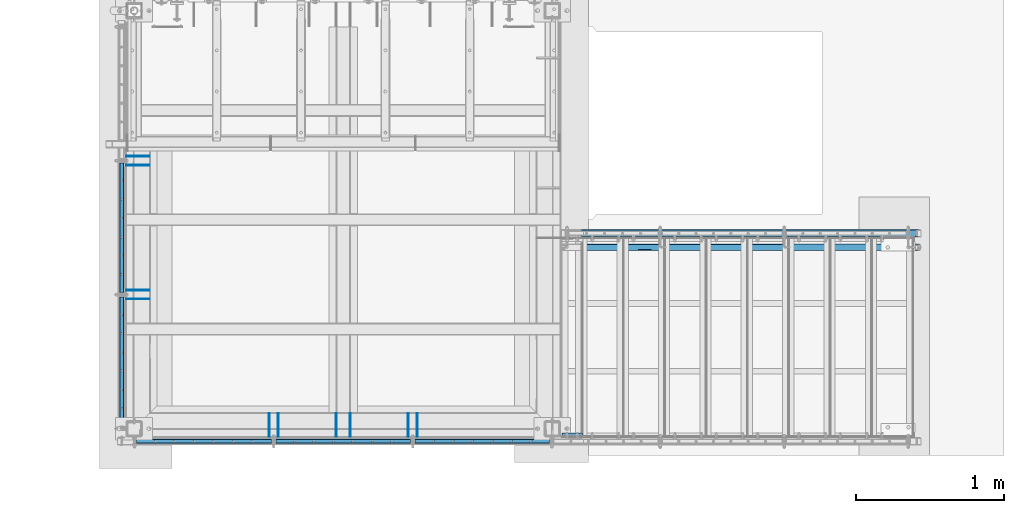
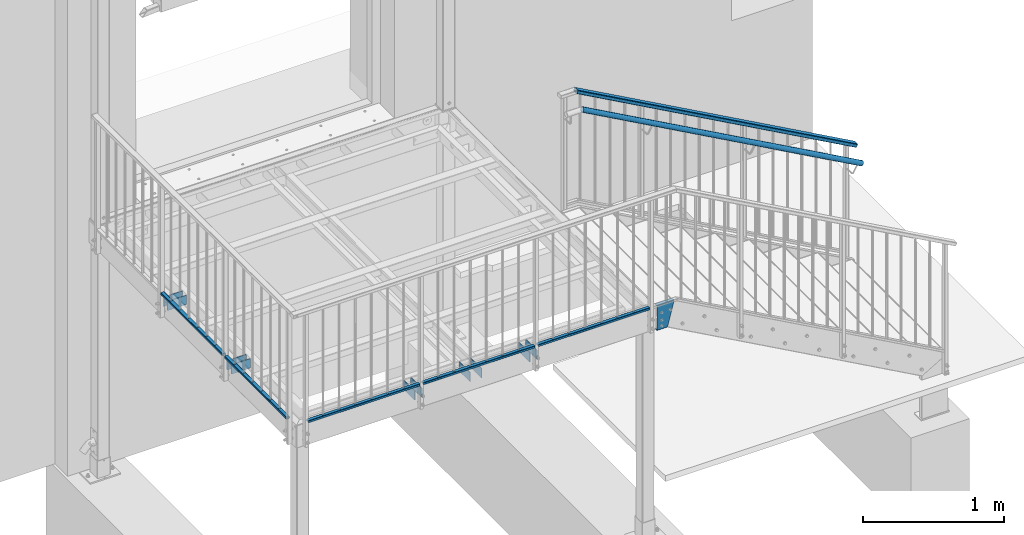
# One storey, part 14 of 116: 16 beams, 2 members, 53 openings.
"""IFC2X3 building model written with IfcOpenShell, lengths in millimetres."""

from ifc_helpers import new_model, entity, si_unit, converted_unit, point, frame, frame_2d, origin, origin_with_axes, origin_2d, origin_2d_with_axis, place, context, project, spatial, circle_curve, line_curve, trimmed, segment, composite_curve, rectangle, hollow_rectangle, circle, hollow_circle, outline, extrude, clip, halfspace, material, element, save


model = new_model("IFC2X3")

# Units and contexts
model_context = context("Model", 3, precision=1e-09, world=origin_with_axes())
ifc_project = project(units=[si_unit("LENGTHUNIT", "METRE", prefix="MILLI"), si_unit("AREAUNIT", "SQUARE_METRE"), si_unit("VOLUMEUNIT", "CUBIC_METRE"), converted_unit("PLANEANGLEUNIT", "DEGREE", entity("IfcPlaneAngleMeasure", 0.01745329), si_unit("PLANEANGLEUNIT", "RADIAN"), dimensions=[0, 0, 0, 0, 0, 0, 0])], contexts=[model_context])

# Site, building, storey
site_placement = place(None, origin_with_axes())
site = spatial("IfcSite", under=ifc_project, at=site_placement, Name="Site", CompositionType="ELEMENT")
building_placement = place(site_placement, origin_with_axes())
building = spatial("IfcBuilding", under=site, at=building_placement, Name="Struktur 1", CompositionType="ELEMENT")
storey_placement = place(building_placement, origin_with_axes())
storey = spatial("IfcBuildingStorey", under=building, at=storey_placement, Name="Default Storey", CompositionType="ELEMENT", Elevation=0.0)

# Beam, openings
ifc_material = material(Name="S235JR")
beam_1_placement = place(None, frame((58598.529568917, 9087.358883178, -108.5), z_axis=(-1.0, 0.0, 0.0), x_axis=(0.0, 1.0, 0.0)))
beam_1 = element("IfcBeam", 1, at=beam_1_placement, inside=storey, material=ifc_material, Name="-", ObjectType="-", context=model_context, shape_type="Clipping", body=[
    clip(extrude(outline(composite_curve([segment(trimmed(line_curve((15.0, 108.5), (-1.0, 0.0), 25.0), [point((15.0, 108.5))], [point((-10.0, 108.5))], True, "CARTESIAN"), True, "CONTINUOUS"), segment(trimmed(circle_curve(frame_2d((-9.999999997, 103.499999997), x_axis=(1.0, 0.0)), 5.000000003), [point((-10.0, 108.5))], [point((-15.0, 103.5))], True, "CARTESIAN"), True, "CONTINUOUS"), segment(trimmed(line_curve((-15.0, 103.5), (0.0, -1.0), 207.0), [point((-15.0, 103.5))], [point((-15.0, -103.5))], True, "CARTESIAN"), True, "CONTINUOUS"), segment(trimmed(circle_curve(frame_2d((-9.999999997, -103.499999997), x_axis=(1.0, 0.0)), 5.000000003), [point((-15.0, -103.5))], [point((-10.0, -108.5))], True, "CARTESIAN"), True, "CONTINUOUS"), segment(trimmed(line_curve((-10.0, -108.5), (1.0, 0.0), 25.0), [point((-10.0, -108.5))], [point((15.0, -108.5))], True, "CARTESIAN"), True, "CONTINUOUS"), segment(trimmed(line_curve((15.0, -108.5), (0.0, 1.0), 4.0), [point((15.0, -108.5))], [point((15.0, -104.5))], True, "CARTESIAN"), True, "CONTINUOUS"), segment(trimmed(line_curve((15.0, -104.5), (-1.0, 0.0), 25.0), [point((15.0, -104.5))], [point((-10.0, -104.5))], True, "CARTESIAN"), True, "CONTINUOUS"), segment(trimmed(circle_curve(frame_2d((-9.999999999, -103.499999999), x_axis=(-1.0, 0.0)), 1.000000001), [point((-10.0, -104.5))], [point((-11.0, -103.5))], False, "CARTESIAN"), True, "CONTINUOUS"), segment(trimmed(line_curve((-11.0, -103.5), (0.0, 1.0), 207.0), [point((-11.0, -103.5))], [point((-11.0, 103.5))], True, "CARTESIAN"), True, "CONTINUOUS"), segment(trimmed(circle_curve(frame_2d((-9.999999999, 103.499999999), x_axis=(-1.0, 0.0)), 1.000000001), [point((-11.0, 103.5))], [point((-10.0, 104.5))], False, "CARTESIAN"), True, "CONTINUOUS"), segment(trimmed(line_curve((-10.0, 104.5), (1.0, 0.0), 25.0), [point((-10.0, 104.5))], [point((15.0, 104.5))], True, "CARTESIAN"), True, "CONTINUOUS"), segment(trimmed(line_curve((15.0, 104.5), (0.0, 1.0), 4.0), [point((15.0, 104.5))], [point((15.0, 108.5))], True, "CARTESIAN"), True, "CONTINUOUS")], self_intersect=False)), origin(), (0.0, 0.0, 1.0), 366.480434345), halfspace(frame((-9087.358883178, 14027.067776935, 3876.640516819), z_axis=(0.0, -0.250106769, 0.968218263), x_axis=(-1.0, 0.0, 0.0)), True)),
])
opening_1_placement = place(beam_1_placement, frame((-10.5, -40.5, 331.480434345), z_axis=(-1.0, 0.0, 0.0), x_axis=(0.0, 0.0, -1.0)))
element("IfcOpeningElement", 2, at=opening_1_placement, cuts=beam_1, ObjectType="Opening", context=model_context, shape_type="SweptSolid", body=[
    extrude(circle(Radius=7.001, at=origin_2d_with_axis()), origin(), (0.0, 0.0, 1.0), 5.0),
])
opening_2_placement = place(beam_1_placement, frame((-10.5, -40.5, 261.480434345), z_axis=(-1.0, 0.0, 0.0), x_axis=(0.0, 0.0, -1.0)))
element("IfcOpeningElement", 3, at=opening_2_placement, cuts=beam_1, ObjectType="Opening", context=model_context, shape_type="SweptSolid", body=[
    extrude(circle(Radius=7.001, at=origin_2d_with_axis()), origin(), (0.0, 0.0, 1.0), 5.0),
])
opening_3_placement = place(beam_1_placement, frame((-10.5, 49.500000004, 331.480434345), z_axis=(-1.0, 0.0, 0.0), x_axis=(0.0, 0.0, -1.0)))
element("IfcOpeningElement", 4, at=opening_3_placement, cuts=beam_1, ObjectType="Opening", context=model_context, shape_type="SweptSolid", body=[
    extrude(circle(Radius=7.001, at=frame_2d((0.0, 25.0), x_axis=(1.0, 0.0))), origin(), (0.0, 0.0, 1.0), 5.0),
])
opening_4_placement = place(beam_1_placement, frame((-10.5, 49.500000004, 331.480434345), z_axis=(-1.0, 0.0, 0.0), x_axis=(0.0, 0.0, -1.0)))
element("IfcOpeningElement", 5, at=opening_4_placement, cuts=beam_1, ObjectType="Opening", context=model_context, shape_type="SweptSolid", body=[
    extrude(circle(Radius=7.001, at=frame_2d((0.0, -25.0), x_axis=(1.0, 0.0))), origin(), (0.0, 0.0, 1.0), 5.0),
])

# Member, openings
member_1_placement = place(None, frame((60652.935275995, 10455.357883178, -287.778349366), z_axis=(-0.874893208, 0.0, 0.484315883), x_axis=(0.484315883, 0.0, 0.874893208)))
member_1 = element("IfcMember", 6, at=member_1_placement, inside=storey, material=ifc_material, Name="-", ObjectType="-", context=model_context, shape_type="Clipping", body=[
    clip(extrude(hollow_rectangle(XDim=30.0, YDim=50.0, WallThickness=3.0, InnerFilletRadius=3.0, OuterFilletRadius=6.0, at=origin_2d()), origin(), (0.0, 0.0, 1.0), 2647.780095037), halfspace(frame((-15051.702041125, -10455.357883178, -1270.435945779), z_axis=(0.250106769, 0.0, -0.968218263), x_axis=(0.0, 1.0, 0.0)), True)),
])
opening_5_placement = place(member_1_placement, frame((-15.499999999, -5.001, 78.433479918), z_axis=(-1.0, 0.0, 0.0), x_axis=(0.0, -1.0, 0.0)))
element("IfcOpeningElement", 7, at=opening_5_placement, cuts=member_1, ObjectType="Opening", context=model_context, shape_type="SweptSolid", body=[
    extrude(circle(Radius=5.001, at=frame_2d((-5.001, 0.0), x_axis=(1.0, 0.0))), origin(), (0.0, 0.0, -1.0), 4.0),
])
opening_6_placement = place(member_1_placement, frame((-15.499999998, -5.001, 1038.550660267), z_axis=(-1.0, 0.0, 0.0), x_axis=(0.0, -1.0, 0.0)))
element("IfcOpeningElement", 8, at=opening_6_placement, cuts=member_1, ObjectType="Opening", context=model_context, shape_type="SweptSolid", body=[
    extrude(circle(Radius=5.001, at=frame_2d((-5.001, 0.0), x_axis=(1.0, 0.0))), origin(), (0.0, 0.0, -1.0), 4.0),
])
opening_7_placement = place(member_1_placement, frame((-15.499999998, -5.001, 1998.668394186), z_axis=(-1.0, 0.0, 0.0), x_axis=(0.0, -1.0, 0.0)))
element("IfcOpeningElement", 9, at=opening_7_placement, cuts=member_1, ObjectType="Opening", context=model_context, shape_type="SweptSolid", body=[
    extrude(circle(Radius=5.001, at=frame_2d((-5.001, 0.0), x_axis=(1.0, 0.0))), origin(), (0.0, 0.0, -1.0), 4.0),
])
opening_8_placement = place(member_1_placement, frame((-3.141238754, 0.0, 2582.047464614), z_axis=(0.874893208, 0.0, 0.484315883), x_axis=(0.0, 1.0, 0.0)))
element("IfcOpeningElement", 10, at=opening_8_placement, cuts=member_1, ObjectType="Opening", context=model_context, shape_type="SweptSolid", body=[
    extrude(outline(circle_curve(frame_2d((0.0, -6.051), x_axis=(1.0, 0.0)), 6.051)), origin(), (0.0, 0.0, -1.0), 1361.001747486),
])
opening_9_placement = place(member_1_placement, frame((-3.141238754, 0.0, 2442.144675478), z_axis=(0.874893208, 0.0, 0.484315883), x_axis=(0.0, 1.0, 0.0)))
element("IfcOpeningElement", 11, at=opening_9_placement, cuts=member_1, ObjectType="Opening", context=model_context, shape_type="SweptSolid", body=[
    extrude(outline(circle_curve(frame_2d((0.0, -6.051), x_axis=(1.0, 0.0)), 6.051)), origin(), (0.0, 0.0, -1.0), 1293.244604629),
])
opening_10_placement = place(member_1_placement, frame((-3.141238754, 0.0, 2302.241886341), z_axis=(0.874893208, 0.0, 0.484315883), x_axis=(0.0, 1.0, 0.0)))
element("IfcOpeningElement", 12, at=opening_10_placement, cuts=member_1, ObjectType="Opening", context=model_context, shape_type="SweptSolid", body=[
    extrude(outline(circle_curve(frame_2d((0.0, -6.051), x_axis=(1.0, 0.0)), 6.051)), origin(), (0.0, 0.0, -1.0), 1225.487461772),
])
opening_11_placement = place(member_1_placement, frame((-3.141238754, 0.0, 2162.339097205), z_axis=(0.874893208, 0.0, 0.484315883), x_axis=(0.0, 1.0, 0.0)))
element("IfcOpeningElement", 13, at=opening_11_placement, cuts=member_1, ObjectType="Opening", context=model_context, shape_type="SweptSolid", body=[
    extrude(outline(circle_curve(frame_2d((0.0, -6.051), x_axis=(1.0, 0.0)), 6.051)), origin(), (0.0, 0.0, -1.0), 1157.730318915),
])
opening_12_placement = place(member_1_placement, frame((-3.141238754, 0.0, 1867.641905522), z_axis=(0.874893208, 0.0, 0.484315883), x_axis=(0.0, 1.0, 0.0)))
element("IfcOpeningElement", 14, at=opening_12_placement, cuts=member_1, ObjectType="Opening", context=model_context, shape_type="SweptSolid", body=[
    extrude(outline(circle_curve(frame_2d((0.0, -6.051), x_axis=(1.0, 0.0)), 6.051)), origin(), (0.0, 0.0, -1.0), 1015.003788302),
])
opening_13_placement = place(member_1_placement, frame((-3.141238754, 0.0, 1733.421442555), z_axis=(0.874893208, 0.0, 0.484315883), x_axis=(0.0, 1.0, 0.0)))
element("IfcOpeningElement", 15, at=opening_13_placement, cuts=member_1, ObjectType="Opening", context=model_context, shape_type="SweptSolid", body=[
    extrude(outline(circle_curve(frame_2d((0.0, -6.051), x_axis=(1.0, 0.0)), 6.051)), origin(), (0.0, 0.0, -1.0), 949.998686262),
])
opening_14_placement = place(member_1_placement, frame((-3.141238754, 0.0, 1599.200979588), z_axis=(0.874893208, 0.0, 0.484315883), x_axis=(0.0, 1.0, 0.0)))
element("IfcOpeningElement", 16, at=opening_14_placement, cuts=member_1, ObjectType="Opening", context=model_context, shape_type="SweptSolid", body=[
    extrude(outline(circle_curve(frame_2d((0.0, -6.051), x_axis=(1.0, 0.0)), 6.051)), origin(), (0.0, 0.0, -1.0), 884.993584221),
])
opening_15_placement = place(member_1_placement, frame((-3.141238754, 0.0, 1464.980516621), z_axis=(0.874893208, 0.0, 0.484315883), x_axis=(0.0, 1.0, 0.0)))
element("IfcOpeningElement", 17, at=opening_15_placement, cuts=member_1, ObjectType="Opening", context=model_context, shape_type="SweptSolid", body=[
    extrude(outline(circle_curve(frame_2d((0.0, -6.051), x_axis=(1.0, 0.0)), 6.051)), origin(), (0.0, 0.0, -1.0), 819.98848218),
])
opening_16_placement = place(member_1_placement, frame((-3.141238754, 0.0, 1330.760053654), z_axis=(0.874893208, 0.0, 0.484315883), x_axis=(0.0, 1.0, 0.0)))
element("IfcOpeningElement", 18, at=opening_16_placement, cuts=member_1, ObjectType="Opening", context=model_context, shape_type="SweptSolid", body=[
    extrude(outline(circle_curve(frame_2d((0.0, -6.051), x_axis=(1.0, 0.0)), 6.051)), origin(), (0.0, 0.0, -1.0), 754.983380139),
])
opening_17_placement = place(member_1_placement, frame((-3.141238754, 0.0, 1196.539590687), z_axis=(0.874893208, 0.0, 0.484315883), x_axis=(0.0, 1.0, 0.0)))
element("IfcOpeningElement", 19, at=opening_17_placement, cuts=member_1, ObjectType="Opening", context=model_context, shape_type="SweptSolid", body=[
    extrude(outline(circle_curve(frame_2d((0.0, -6.051), x_axis=(1.0, 0.0)), 6.051)), origin(), (0.0, 0.0, -1.0), 689.978278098),
])
opening_18_placement = place(member_1_placement, frame((-3.141238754, 0.0, 236.422410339), z_axis=(0.874893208, 0.0, 0.484315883), x_axis=(0.0, 1.0, 0.0)))
element("IfcOpeningElement", 20, at=opening_18_placement, cuts=member_1, ObjectType="Opening", context=model_context, shape_type="SweptSolid", body=[
    extrude(outline(circle_curve(frame_2d((0.0, -6.051), x_axis=(1.0, 0.0)), 6.051)), origin(), (0.0, 0.0, -1.0), 224.978278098),
])
opening_19_placement = place(member_1_placement, frame((-3.141238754, 0.0, 370.642873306), z_axis=(0.874893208, 0.0, 0.484315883), x_axis=(0.0, 1.0, 0.0)))
element("IfcOpeningElement", 21, at=opening_19_placement, cuts=member_1, ObjectType="Opening", context=model_context, shape_type="SweptSolid", body=[
    extrude(outline(circle_curve(frame_2d((0.0, -6.051), x_axis=(1.0, 0.0)), 6.051)), origin(), (0.0, 0.0, -1.0), 289.983380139),
])
opening_20_placement = place(member_1_placement, frame((-3.141238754, 0.0, 504.863336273), z_axis=(0.874893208, 0.0, 0.484315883), x_axis=(0.0, 1.0, 0.0)))
element("IfcOpeningElement", 22, at=opening_20_placement, cuts=member_1, ObjectType="Opening", context=model_context, shape_type="SweptSolid", body=[
    extrude(outline(circle_curve(frame_2d((0.0, -6.051), x_axis=(1.0, 0.0)), 6.051)), origin(), (0.0, 0.0, -1.0), 354.98848218),
])
opening_21_placement = place(member_1_placement, frame((-3.141238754, 0.0, 639.08379924), z_axis=(0.874893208, 0.0, 0.484315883), x_axis=(0.0, 1.0, 0.0)))
element("IfcOpeningElement", 23, at=opening_21_placement, cuts=member_1, ObjectType="Opening", context=model_context, shape_type="SweptSolid", body=[
    extrude(outline(circle_curve(frame_2d((0.0, -6.051), x_axis=(1.0, 0.0)), 6.051)), origin(), (0.0, 0.0, -1.0), 419.993584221),
])
opening_22_placement = place(member_1_placement, frame((-3.141238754, 0.0, 773.304262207), z_axis=(0.874893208, 0.0, 0.484315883), x_axis=(0.0, 1.0, 0.0)))
element("IfcOpeningElement", 24, at=opening_22_placement, cuts=member_1, ObjectType="Opening", context=model_context, shape_type="SweptSolid", body=[
    extrude(outline(circle_curve(frame_2d((0.0, -6.051), x_axis=(1.0, 0.0)), 6.051)), origin(), (0.0, 0.0, -1.0), 484.998686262),
])
opening_23_placement = place(member_1_placement, frame((-3.141238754, 0.0, 907.524725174), z_axis=(0.874893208, 0.0, 0.484315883), x_axis=(0.0, 1.0, 0.0)))
element("IfcOpeningElement", 25, at=opening_23_placement, cuts=member_1, ObjectType="Opening", context=model_context, shape_type="SweptSolid", body=[
    extrude(outline(circle_curve(frame_2d((0.0, -6.051), x_axis=(1.0, 0.0)), 6.051)), origin(), (0.0, 0.0, -1.0), 550.003788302),
])

# Beams
beam_2_placement = place(None, frame((55441.049134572, 10070.358883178, -88.0), z_axis=(1.0, 0.0, 0.0), x_axis=(0.0, 1.0, 0.0)))
element("IfcBeam", 26, at=beam_2_placement, inside=storey, material=ifc_material, Name="-", ObjectType="-", context=model_context, shape_type="SweptSolid", body=[
    extrude(rectangle(XDim=6.0, YDim=80.0, at=origin_2d()), origin(), (0.0, 0.0, -1.0), 158.0),
])
beam_3_placement = place(None, frame((55441.049134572, 10916.358883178, -88.0), z_axis=(-1.0, 0.0, 0.0), x_axis=(0.0, -1.0, 0.0)))
element("IfcBeam", 27, at=beam_3_placement, inside=storey, material=ifc_material, Name="-", ObjectType="-", context=model_context, shape_type="SweptSolid", body=[
    extrude(rectangle(XDim=6.0, YDim=80.0, at=origin_2d()), origin(), (0.0, 0.0, 1.0), 158.0),
])
beam_4_placement = place(None, frame((57193.049134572, 9236.358883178, -88.0), z_axis=(0.0, 1.0, 0.0), x_axis=(-1.0, 0.0, 0.0)))
element("IfcBeam", 28, at=beam_4_placement, inside=storey, material=ifc_material, Name="-", ObjectType="-", context=model_context, shape_type="SweptSolid", body=[
    extrude(rectangle(XDim=6.0, YDim=80.0, at=origin_2d()), origin(), (0.0, 0.0, -1.0), 158.0),
])
beam_5_placement = place(None, frame((56311.049134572, 9236.358883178, -88.0), z_axis=(0.0, -1.0, 0.0), x_axis=(1.0, 0.0, 0.0)))
element("IfcBeam", 29, at=beam_5_placement, inside=storey, material=ifc_material, Name="-", ObjectType="-", context=model_context, shape_type="SweptSolid", body=[
    extrude(rectangle(XDim=6.0, YDim=80.0, at=origin_2d()), origin(), (0.0, 0.0, 1.0), 158.0),
])
beam_6_placement = place(None, frame((56705.049134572, 9236.358883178, -88.0), z_axis=(0.0, 1.0, 0.0), x_axis=(-1.0, 0.0, 0.0)))
element("IfcBeam", 30, at=beam_6_placement, inside=storey, material=ifc_material, Name="-", ObjectType="-", context=model_context, shape_type="SweptSolid", body=[
    extrude(rectangle(XDim=6.0, YDim=80.0, at=origin_2d()), origin(), (0.0, 0.0, -1.0), 158.0),
])
beam_7_placement = place(None, frame((56799.049134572, 9236.358883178, -88.0), z_axis=(0.0, -1.0, 0.0), x_axis=(1.0, 0.0, 0.0)))
element("IfcBeam", 31, at=beam_7_placement, inside=storey, material=ifc_material, Name="-", ObjectType="-", context=model_context, shape_type="SweptSolid", body=[
    extrude(rectangle(XDim=6.0, YDim=80.0, at=origin_2d()), origin(), (0.0, 0.0, 1.0), 158.0),
])
beam_8_placement = place(None, frame((56251.049134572, 9236.358883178, -88.0), z_axis=(0.0, 1.0, 0.0), x_axis=(-1.0, 0.0, 0.0)))
element("IfcBeam", 32, at=beam_8_placement, inside=storey, material=ifc_material, Name="-", ObjectType="-", context=model_context, shape_type="SweptSolid", body=[
    extrude(rectangle(XDim=6.0, YDim=80.0, at=origin_2d()), origin(), (0.0, 0.0, -1.0), 158.0),
])
beam_9_placement = place(None, frame((57253.049134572, 9236.358883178, -88.0), z_axis=(0.0, -1.0, 0.0), x_axis=(1.0, 0.0, 0.0)))
element("IfcBeam", 33, at=beam_9_placement, inside=storey, material=ifc_material, Name="-", ObjectType="-", context=model_context, shape_type="SweptSolid", body=[
    extrude(rectangle(XDim=6.0, YDim=80.0, at=origin_2d()), origin(), (0.0, 0.0, 1.0), 158.0),
])
beam_10_placement = place(None, frame((55441.049134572, 10976.358883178, -88.0), z_axis=(1.0, 0.0, 0.0), x_axis=(0.0, 1.0, 0.0)))
element("IfcBeam", 34, at=beam_10_placement, inside=storey, material=ifc_material, Name="-", ObjectType="-", context=model_context, shape_type="SweptSolid", body=[
    extrude(rectangle(XDim=6.0, YDim=80.0, at=origin_2d()), origin(), (0.0, 0.0, -1.0), 158.0),
])
beam_11_placement = place(None, frame((55441.049134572, 10010.358883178, -88.0), z_axis=(-1.0, 0.0, 0.0), x_axis=(0.0, -1.0, 0.0)))
element("IfcBeam", 35, at=beam_11_placement, inside=storey, material=ifc_material, Name="-", ObjectType="-", context=model_context, shape_type="SweptSolid", body=[
    extrude(rectangle(XDim=6.0, YDim=80.0, at=origin_2d()), origin(), (0.0, 0.0, 1.0), 158.0),
])

# Beam, openings
beam_12_placement = place(None, frame((55354.049134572, 9047.359883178, 25.0), z_axis=(-1.0, 0.0, 0.0), x_axis=(0.0, 0.0, -1.0)))
beam_12 = element("IfcBeam", 36, at=beam_12_placement, inside=storey, material=ifc_material, Name="-", ObjectType="-", context=model_context, shape_type="SweptSolid", body=[
    extrude(hollow_rectangle(XDim=20.0, YDim=30.0, WallThickness=2.0, InnerFilletRadius=2.0, OuterFilletRadius=4.0, at=origin_2d()), origin(), (0.0, 0.0, -1.0), 912.0),
])
opening_24_placement = place(beam_12_placement, frame((-7.5, 0.0, -786.0), z_axis=(-1.0, 0.0, 0.0), x_axis=(0.0, 1.0, 0.0)))
element("IfcOpeningElement", 37, at=opening_24_placement, cuts=beam_12, ObjectType="Opening", context=model_context, shape_type="SweptSolid", body=[
    extrude(circle(Radius=6.051, at=origin_2d_with_axis()), origin(), (0.0, 0.0, 1.0), 3.0),
])
opening_25_placement = place(beam_12_placement, frame((-7.5, 0.0, -654.0), z_axis=(-1.0, 0.0, 0.0), x_axis=(0.0, 1.0, 0.0)))
element("IfcOpeningElement", 38, at=opening_25_placement, cuts=beam_12, ObjectType="Opening", context=model_context, shape_type="SweptSolid", body=[
    extrude(circle(Radius=6.051, at=origin_2d_with_axis()), origin(), (0.0, 0.0, 1.0), 3.0),
])
opening_26_placement = place(beam_12_placement, frame((-7.5, 0.0, -522.0), z_axis=(-1.0, 0.0, 0.0), x_axis=(0.0, 1.0, 0.0)))
element("IfcOpeningElement", 39, at=opening_26_placement, cuts=beam_12, ObjectType="Opening", context=model_context, shape_type="SweptSolid", body=[
    extrude(circle(Radius=6.051, at=origin_2d_with_axis()), origin(), (0.0, 0.0, 1.0), 3.0),
])
opening_27_placement = place(beam_12_placement, frame((-7.5, 0.0, -390.0), z_axis=(-1.0, 0.0, 0.0), x_axis=(0.0, 1.0, 0.0)))
element("IfcOpeningElement", 40, at=opening_27_placement, cuts=beam_12, ObjectType="Opening", context=model_context, shape_type="SweptSolid", body=[
    extrude(circle(Radius=6.051, at=origin_2d_with_axis()), origin(), (0.0, 0.0, 1.0), 3.0),
])
opening_28_placement = place(beam_12_placement, frame((-7.5, 0.0, -258.0), z_axis=(-1.0, 0.0, 0.0), x_axis=(0.0, 1.0, 0.0)))
element("IfcOpeningElement", 41, at=opening_28_placement, cuts=beam_12, ObjectType="Opening", context=model_context, shape_type="SweptSolid", body=[
    extrude(circle(Radius=6.051, at=origin_2d_with_axis()), origin(), (0.0, 0.0, 1.0), 3.0),
])
opening_29_placement = place(beam_12_placement, frame((-7.5, 0.0, -126.0), z_axis=(-1.0, 0.0, 0.0), x_axis=(0.0, 1.0, 0.0)))
element("IfcOpeningElement", 42, at=opening_29_placement, cuts=beam_12, ObjectType="Opening", context=model_context, shape_type="SweptSolid", body=[
    extrude(circle(Radius=6.051, at=origin_2d_with_axis()), origin(), (0.0, 0.0, 1.0), 3.0),
])

beam_13_placement = place(None, frame((56296.049134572, 9047.359883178, 25.0), z_axis=(-1.0, 0.0, 0.0), x_axis=(0.0, 0.0, -1.0)))
beam_13 = element("IfcBeam", 43, at=beam_13_placement, inside=storey, material=ifc_material, Name="-", ObjectType="-", context=model_context, shape_type="SweptSolid", body=[
    extrude(hollow_rectangle(XDim=20.0, YDim=30.0, WallThickness=2.0, InnerFilletRadius=2.0, OuterFilletRadius=4.0, at=origin_2d()), origin(), (0.0, 0.0, -1.0), 912.0),
])
opening_30_placement = place(beam_13_placement, frame((-7.5, 0.0, -654.0), z_axis=(-1.0, 0.0, 0.0), x_axis=(0.0, 1.0, 0.0)))
element("IfcOpeningElement", 44, at=opening_30_placement, cuts=beam_13, ObjectType="Opening", context=model_context, shape_type="SweptSolid", body=[
    extrude(circle(Radius=6.051, at=origin_2d_with_axis()), origin(), (0.0, 0.0, 1.0), 3.0),
])
opening_31_placement = place(beam_13_placement, frame((-7.5, 0.0, -522.0), z_axis=(-1.0, 0.0, 0.0), x_axis=(0.0, 1.0, 0.0)))
element("IfcOpeningElement", 45, at=opening_31_placement, cuts=beam_13, ObjectType="Opening", context=model_context, shape_type="SweptSolid", body=[
    extrude(circle(Radius=6.051, at=origin_2d_with_axis()), origin(), (0.0, 0.0, 1.0), 3.0),
])
opening_32_placement = place(beam_13_placement, frame((-7.5, 0.0, -786.0), z_axis=(-1.0, 0.0, 0.0), x_axis=(0.0, 1.0, 0.0)))
element("IfcOpeningElement", 46, at=opening_32_placement, cuts=beam_13, ObjectType="Opening", context=model_context, shape_type="SweptSolid", body=[
    extrude(circle(Radius=6.051, at=origin_2d_with_axis()), origin(), (0.0, 0.0, 1.0), 3.0),
])
opening_33_placement = place(beam_13_placement, frame((-7.5, 0.0, -258.0), z_axis=(-1.0, 0.0, 0.0), x_axis=(0.0, 1.0, 0.0)))
element("IfcOpeningElement", 47, at=opening_33_placement, cuts=beam_13, ObjectType="Opening", context=model_context, shape_type="SweptSolid", body=[
    extrude(circle(Radius=6.051, at=origin_2d_with_axis()), origin(), (0.0, 0.0, 1.0), 3.0),
])
opening_34_placement = place(beam_13_placement, frame((-7.5, 0.0, -390.0), z_axis=(-1.0, 0.0, 0.0), x_axis=(0.0, 1.0, 0.0)))
element("IfcOpeningElement", 48, at=opening_34_placement, cuts=beam_13, ObjectType="Opening", context=model_context, shape_type="SweptSolid", body=[
    extrude(circle(Radius=6.051, at=origin_2d_with_axis()), origin(), (0.0, 0.0, 1.0), 3.0),
])
opening_35_placement = place(beam_13_placement, frame((-7.5, 0.0, -126.0), z_axis=(-1.0, 0.0, 0.0), x_axis=(0.0, 1.0, 0.0)))
element("IfcOpeningElement", 49, at=opening_35_placement, cuts=beam_13, ObjectType="Opening", context=model_context, shape_type="SweptSolid", body=[
    extrude(circle(Radius=6.051, at=origin_2d_with_axis()), origin(), (0.0, 0.0, 1.0), 3.0),
])

beam_14_placement = place(None, frame((57238.049134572, 9047.359883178, 25.0), z_axis=(-1.0, 0.0, 0.0), x_axis=(0.0, 0.0, -1.0)))
beam_14 = element("IfcBeam", 50, at=beam_14_placement, inside=storey, material=ifc_material, Name="-", ObjectType="-", context=model_context, shape_type="SweptSolid", body=[
    extrude(hollow_rectangle(XDim=20.0, YDim=30.0, WallThickness=2.0, InnerFilletRadius=2.0, OuterFilletRadius=4.0, at=origin_2d()), origin(), (0.0, 0.0, -1.0), 912.0),
])
opening_36_placement = place(beam_14_placement, frame((-7.5, 0.0, -126.0), z_axis=(-1.0, 0.0, 0.0), x_axis=(0.0, 1.0, 0.0)))
element("IfcOpeningElement", 51, at=opening_36_placement, cuts=beam_14, ObjectType="Opening", context=model_context, shape_type="SweptSolid", body=[
    extrude(circle(Radius=6.051, at=origin_2d_with_axis()), origin(), (0.0, 0.0, 1.0), 3.0),
])
opening_37_placement = place(beam_14_placement, frame((-7.5, 0.0, -390.0), z_axis=(-1.0, 0.0, 0.0), x_axis=(0.0, 1.0, 0.0)))
element("IfcOpeningElement", 52, at=opening_37_placement, cuts=beam_14, ObjectType="Opening", context=model_context, shape_type="SweptSolid", body=[
    extrude(circle(Radius=6.051, at=origin_2d_with_axis()), origin(), (0.0, 0.0, 1.0), 3.0),
])
opening_38_placement = place(beam_14_placement, frame((-7.5, 0.0, -654.0), z_axis=(-1.0, 0.0, 0.0), x_axis=(0.0, 1.0, 0.0)))
element("IfcOpeningElement", 53, at=opening_38_placement, cuts=beam_14, ObjectType="Opening", context=model_context, shape_type="SweptSolid", body=[
    extrude(circle(Radius=6.051, at=origin_2d_with_axis()), origin(), (0.0, 0.0, 1.0), 3.0),
])
opening_39_placement = place(beam_14_placement, frame((-7.5, 0.0, -258.0), z_axis=(-1.0, 0.0, 0.0), x_axis=(0.0, 1.0, 0.0)))
element("IfcOpeningElement", 54, at=opening_39_placement, cuts=beam_14, ObjectType="Opening", context=model_context, shape_type="SweptSolid", body=[
    extrude(circle(Radius=6.051, at=origin_2d_with_axis()), origin(), (0.0, 0.0, 1.0), 3.0),
])
opening_40_placement = place(beam_14_placement, frame((-7.5, 0.0, -522.0), z_axis=(-1.0, 0.0, 0.0), x_axis=(0.0, 1.0, 0.0)))
element("IfcOpeningElement", 55, at=opening_40_placement, cuts=beam_14, ObjectType="Opening", context=model_context, shape_type="SweptSolid", body=[
    extrude(circle(Radius=6.051, at=origin_2d_with_axis()), origin(), (0.0, 0.0, 1.0), 3.0),
])
opening_41_placement = place(beam_14_placement, frame((-7.5, 0.0, -786.0), z_axis=(-1.0, 0.0, 0.0), x_axis=(0.0, 1.0, 0.0)))
element("IfcOpeningElement", 56, at=opening_41_placement, cuts=beam_14, ObjectType="Opening", context=model_context, shape_type="SweptSolid", body=[
    extrude(circle(Radius=6.051, at=origin_2d_with_axis()), origin(), (0.0, 0.0, 1.0), 3.0),
])

beam_15_placement = place(None, frame((55252.049134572, 9149.358883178, 25.0), z_axis=(0.0, -1.0, 0.0), x_axis=(0.0, 0.0, -1.0)))
beam_15 = element("IfcBeam", 57, at=beam_15_placement, inside=storey, material=ifc_material, Name="-", ObjectType="-", context=model_context, shape_type="SweptSolid", body=[
    extrude(hollow_rectangle(XDim=20.0, YDim=30.0, WallThickness=2.0, InnerFilletRadius=2.0, OuterFilletRadius=4.0, at=origin_2d()), origin(), (0.0, 0.0, -1.0), 876.0),
])
opening_42_placement = place(beam_15_placement, frame((-7.5, 0.0, -126.0), z_axis=(-1.0, 0.0, 0.0), x_axis=(0.0, 1.0, 0.0)))
element("IfcOpeningElement", 58, at=opening_42_placement, cuts=beam_15, ObjectType="Opening", context=model_context, shape_type="SweptSolid", body=[
    extrude(circle(Radius=6.051, at=frame_2d((0.0, -5.1428574), x_axis=(1.0, 0.0))), origin(), (0.0, 0.0, 1.0), 3.0),
])
opening_43_placement = place(beam_15_placement, frame((-7.5, 0.0, -252.8571429), z_axis=(-1.0, 0.0, 0.0), x_axis=(0.0, 1.0, 0.0)))
element("IfcOpeningElement", 59, at=opening_43_placement, cuts=beam_15, ObjectType="Opening", context=model_context, shape_type="SweptSolid", body=[
    extrude(circle(Radius=6.051, at=frame_2d((0.0, -5.1428574), x_axis=(1.0, 0.0))), origin(), (0.0, 0.0, 1.0), 3.0),
])
opening_44_placement = place(beam_15_placement, frame((-7.5, 0.0, -379.7142858), z_axis=(-1.0, 0.0, 0.0), x_axis=(0.0, 1.0, 0.0)))
element("IfcOpeningElement", 60, at=opening_44_placement, cuts=beam_15, ObjectType="Opening", context=model_context, shape_type="SweptSolid", body=[
    extrude(circle(Radius=6.051, at=frame_2d((0.0, -5.1428574), x_axis=(1.0, 0.0))), origin(), (0.0, 0.0, 1.0), 3.0),
])
opening_45_placement = place(beam_15_placement, frame((-7.5, 0.0, -506.5714287), z_axis=(-1.0, 0.0, 0.0), x_axis=(0.0, 1.0, 0.0)))
element("IfcOpeningElement", 61, at=opening_45_placement, cuts=beam_15, ObjectType="Opening", context=model_context, shape_type="SweptSolid", body=[
    extrude(circle(Radius=6.051, at=frame_2d((0.0, -5.1428574), x_axis=(1.0, 0.0))), origin(), (0.0, 0.0, 1.0), 3.0),
])
opening_46_placement = place(beam_15_placement, frame((-7.5, 0.0, -633.4285716), z_axis=(-1.0, 0.0, 0.0), x_axis=(0.0, 1.0, 0.0)))
element("IfcOpeningElement", 62, at=opening_46_placement, cuts=beam_15, ObjectType="Opening", context=model_context, shape_type="SweptSolid", body=[
    extrude(circle(Radius=6.051, at=frame_2d((0.0, -5.1428574), x_axis=(1.0, 0.0))), origin(), (0.0, 0.0, 1.0), 3.0),
])
opening_47_placement = place(beam_15_placement, frame((-7.5, 0.0, -760.2857145), z_axis=(-1.0, 0.0, 0.0), x_axis=(0.0, 1.0, 0.0)))
element("IfcOpeningElement", 63, at=opening_47_placement, cuts=beam_15, ObjectType="Opening", context=model_context, shape_type="SweptSolid", body=[
    extrude(circle(Radius=6.051, at=frame_2d((0.0, -5.1428574), x_axis=(1.0, 0.0))), origin(), (0.0, 0.0, 1.0), 3.0),
])

beam_16_placement = place(None, frame((55252.049134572, 10055.358883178, 25.0), z_axis=(0.0, -1.0, 0.0), x_axis=(0.0, 0.0, -1.0)))
beam_16 = element("IfcBeam", 64, at=beam_16_placement, inside=storey, material=ifc_material, Name="-", ObjectType="-", context=model_context, shape_type="SweptSolid", body=[
    extrude(hollow_rectangle(XDim=20.0, YDim=30.0, WallThickness=2.0, InnerFilletRadius=2.0, OuterFilletRadius=4.0, at=origin_2d()), origin(), (0.0, 0.0, -1.0), 876.0),
])
opening_48_placement = place(beam_16_placement, frame((-7.5, 0.0, -126.0), z_axis=(-1.0, 0.0, 0.0), x_axis=(0.0, 1.0, 0.0)))
element("IfcOpeningElement", 65, at=opening_48_placement, cuts=beam_16, ObjectType="Opening", context=model_context, shape_type="SweptSolid", body=[
    extrude(circle(Radius=6.051, at=frame_2d((0.0, -5.1428574), x_axis=(1.0, 0.0))), origin(), (0.0, 0.0, 1.0), 3.0),
])
opening_49_placement = place(beam_16_placement, frame((-7.5, 0.0, -252.8571429), z_axis=(-1.0, 0.0, 0.0), x_axis=(0.0, 1.0, 0.0)))
element("IfcOpeningElement", 66, at=opening_49_placement, cuts=beam_16, ObjectType="Opening", context=model_context, shape_type="SweptSolid", body=[
    extrude(circle(Radius=6.051, at=frame_2d((0.0, -5.1428574), x_axis=(1.0, 0.0))), origin(), (0.0, 0.0, 1.0), 3.0),
])
opening_50_placement = place(beam_16_placement, frame((-7.5, 0.0, -379.7142858), z_axis=(-1.0, 0.0, 0.0), x_axis=(0.0, 1.0, 0.0)))
element("IfcOpeningElement", 67, at=opening_50_placement, cuts=beam_16, ObjectType="Opening", context=model_context, shape_type="SweptSolid", body=[
    extrude(circle(Radius=6.051, at=frame_2d((0.0, -5.1428574), x_axis=(1.0, 0.0))), origin(), (0.0, 0.0, 1.0), 3.0),
])
opening_51_placement = place(beam_16_placement, frame((-7.5, 0.0, -506.5714287), z_axis=(-1.0, 0.0, 0.0), x_axis=(0.0, 1.0, 0.0)))
element("IfcOpeningElement", 68, at=opening_51_placement, cuts=beam_16, ObjectType="Opening", context=model_context, shape_type="SweptSolid", body=[
    extrude(circle(Radius=6.051, at=frame_2d((0.0, -5.1428574), x_axis=(1.0, 0.0))), origin(), (0.0, 0.0, 1.0), 3.0),
])
opening_52_placement = place(beam_16_placement, frame((-7.5, 0.0, -633.4285716), z_axis=(-1.0, 0.0, 0.0), x_axis=(0.0, 1.0, 0.0)))
element("IfcOpeningElement", 69, at=opening_52_placement, cuts=beam_16, ObjectType="Opening", context=model_context, shape_type="SweptSolid", body=[
    extrude(circle(Radius=6.051, at=frame_2d((0.0, -5.1428574), x_axis=(1.0, 0.0))), origin(), (0.0, 0.0, 1.0), 3.0),
])
opening_53_placement = place(beam_16_placement, frame((-7.5, 0.0, -760.2857145), z_axis=(-1.0, 0.0, 0.0), x_axis=(0.0, 1.0, 0.0)))
element("IfcOpeningElement", 70, at=opening_53_placement, cuts=beam_16, ObjectType="Opening", context=model_context, shape_type="SweptSolid", body=[
    extrude(circle(Radius=6.051, at=frame_2d((0.0, -5.1428574), x_axis=(1.0, 0.0))), origin(), (0.0, 0.0, 1.0), 3.0),
])

# Member
member_2_placement = place(None, frame((60649.932517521, 10360.357883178, -393.202687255), z_axis=(-0.874893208, 0.0, 0.484315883), x_axis=(0.484315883, 0.0, 0.874893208)))
element("IfcMember", 71, at=member_2_placement, inside=storey, material=ifc_material, Name="-", ObjectType="-", context=model_context, shape_type="Clipping", body=[
    clip(extrude(hollow_circle(Radius=21.2, WallThickness=2.6, at=origin_2d()), origin(), (0.0, 0.0, 1.0), 2647.012955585), halfspace(frame((-14951.752712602, -10360.357883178, -1246.238222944), z_axis=(0.250106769, 0.0, -0.968218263), x_axis=(0.0, 1.0, 0.0)), True)),
])

save(model, "model.ifc")
